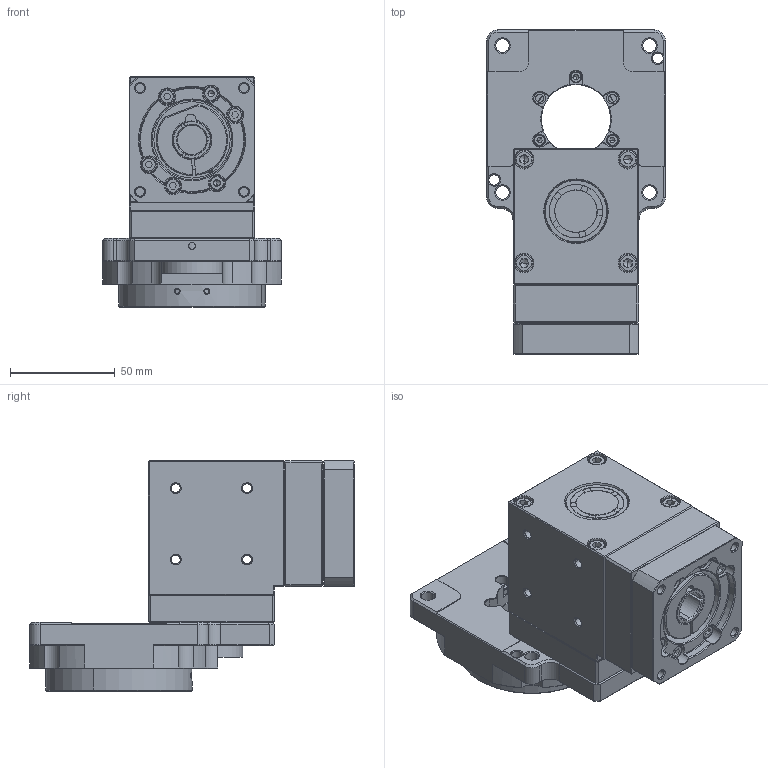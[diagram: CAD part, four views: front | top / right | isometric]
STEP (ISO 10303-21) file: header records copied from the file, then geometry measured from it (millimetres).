
FILE_DESCRIPTION (( 'STEP AP203' ), '1' );
FILE_NAME ('2.STEP', '2022-12-13T06:09:12', ( '' ), ( '' ), 'SwSTEP 2.0', 'SolidWorks 2020', '' );
FILE_SCHEMA (( 'CONFIG_CONTROL_DESIGN' ));
Length unit declared in the file: millimetre
Products named in the file (1): 2
Bounding box: 85 x 154.5 x 109.7 mm (x, y, z)
Surface area: 87765.4 mm2 (no closed solid volume)
Topology: 0 solids, 43 shells, 809 faces, 2603 edges, 1764 vertices
Faces by surface type: plane 328, cone 212, cylinder 198, torus 49, bspline 22
Entity records: 31619 total; most frequent: CARTESIAN_POINT 8952, DIRECTION 4783, ORIENTED_EDGE 4261, EDGE_CURVE 2585, VERTEX_POINT 1764, AXIS2_PLACEMENT_3D 1723, LINE 1337, VECTOR 1337
